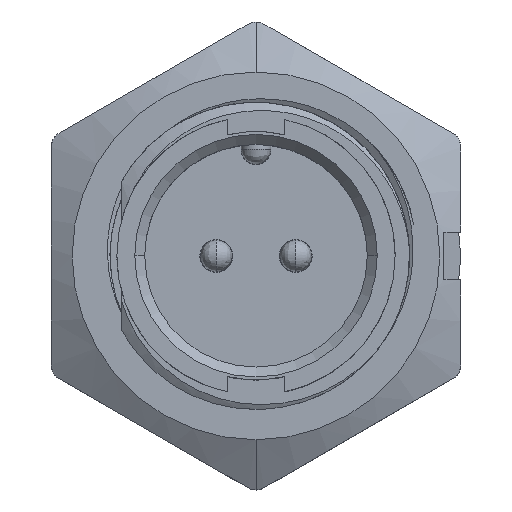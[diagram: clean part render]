
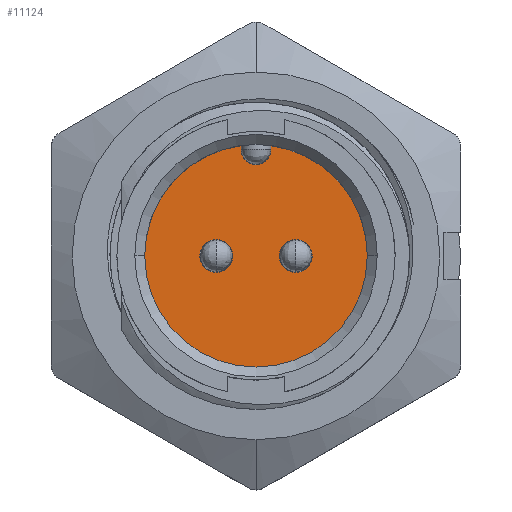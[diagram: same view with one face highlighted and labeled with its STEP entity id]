
A CAD part, top view. The second image highlights one B-rep face of the part: STEP entity #11124.
In plain terms, the highlighted planar face has unit normal (0, 0, 1).
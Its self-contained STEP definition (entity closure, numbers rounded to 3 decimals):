
#9 = PLANE ( 'NONE',  #3208 ) ;
#57 = EDGE_LOOP ( 'NONE', ( #4054, #10061 ) ) ;
#187 = CARTESIAN_POINT ( 'NONE',  ( -0.75, 5.55, -9. ) ) ;
#265 = EDGE_LOOP ( 'NONE', ( #1496, #10187 ) ) ;
#430 = CIRCLE ( 'NONE', #5168, 5.6 ) ;
#556 = VERTEX_POINT ( 'NONE', #3642 ) ;
#563 = DIRECTION ( 'NONE',  ( 0., 0., 1. ) ) ;
#662 = AXIS2_PLACEMENT_3D ( 'NONE', #1089, #5703, #1208 ) ;
#848 = AXIS2_PLACEMENT_3D ( 'NONE', #891, #8313, #4490 ) ;
#891 = CARTESIAN_POINT ( 'NONE',  ( 0., 0., -9. ) ) ;
#1043 = DIRECTION ( 'NONE',  ( 0., 0., -1. ) ) ;
#1089 = CARTESIAN_POINT ( 'NONE',  ( 2., 0., -9. ) ) ;
#1103 = DIRECTION ( 'NONE',  ( 1., 0., 0. ) ) ;
#1208 = DIRECTION ( 'NONE',  ( 1., 0., 0. ) ) ;
#1496 = ORIENTED_EDGE ( 'NONE', *, *, #7570, .T. ) ;
#1624 = DIRECTION ( 'NONE',  ( 0., 0., -1. ) ) ;
#1945 = VECTOR ( 'NONE', #10004, 1000. ) ;
#2050 = ORIENTED_EDGE ( 'NONE', *, *, #7890, .T. ) ;
#2290 = ORIENTED_EDGE ( 'NONE', *, *, #8108, .T. ) ;
#2417 = CARTESIAN_POINT ( 'NONE',  ( 5.6, 0., -9. ) ) ;
#2439 = CARTESIAN_POINT ( 'NONE',  ( 0., 0., -9. ) ) ;
#2722 = CIRCLE ( 'NONE', #5005, 0.75 ) ;
#2787 = VERTEX_POINT ( 'NONE', #8718 ) ;
#2807 = CARTESIAN_POINT ( 'NONE',  ( 0.75, -0.028, -9. ) ) ;
#2911 = LINE ( 'NONE', #4021, #4588 ) ;
#3106 = CARTESIAN_POINT ( 'NONE',  ( 2.825, 0., -9. ) ) ;
#3208 = AXIS2_PLACEMENT_3D ( 'NONE', #3564, #4626, #10986 ) ;
#3564 = CARTESIAN_POINT ( 'NONE',  ( 0., -0.028, -9. ) ) ;
#3642 = CARTESIAN_POINT ( 'NONE',  ( 1.175, 0., -9. ) ) ;
#3666 = AXIS2_PLACEMENT_3D ( 'NONE', #10550, #5133, #6138 ) ;
#3916 = ORIENTED_EDGE ( 'NONE', *, *, #5432, .T. ) ;
#3995 = CARTESIAN_POINT ( 'NONE',  ( -2., 0., -9. ) ) ;
#4021 = CARTESIAN_POINT ( 'NONE',  ( -0.75, -0.028, -9. ) ) ;
#4054 = ORIENTED_EDGE ( 'NONE', *, *, #8025, .T. ) ;
#4198 = EDGE_CURVE ( 'NONE', #9467, #9428, #430, .T. ) ;
#4243 = CIRCLE ( 'NONE', #3666, 0.825 ) ;
#4330 = VERTEX_POINT ( 'NONE', #9320 ) ;
#4490 = DIRECTION ( 'NONE',  ( 1., 0., 0. ) ) ;
#4588 = VECTOR ( 'NONE', #6868, 1000. ) ;
#4612 = CARTESIAN_POINT ( 'NONE',  ( 0.75, 5.55, -9. ) ) ;
#4626 = DIRECTION ( 'NONE',  ( 0., 0., 1. ) ) ;
#4815 = CIRCLE ( 'NONE', #11010, 5.6 ) ;
#4958 = CIRCLE ( 'NONE', #8293, 0.825 ) ;
#4969 = VERTEX_POINT ( 'NONE', #3106 ) ;
#5005 = AXIS2_PLACEMENT_3D ( 'NONE', #5354, #1624, #11529 ) ;
#5133 = DIRECTION ( 'NONE',  ( 0., 0., -1. ) ) ;
#5160 = DIRECTION ( 'NONE',  ( 1., 0., 0. ) ) ;
#5168 = AXIS2_PLACEMENT_3D ( 'NONE', #2439, #9634, #5160 ) ;
#5354 = CARTESIAN_POINT ( 'NONE',  ( 0., 5.35, -9. ) ) ;
#5432 = EDGE_CURVE ( 'NONE', #6468, #4330, #8284, .T. ) ;
#5534 = DIRECTION ( 'NONE',  ( 1., 0., 0. ) ) ;
#5634 = FACE_OUTER_BOUND ( 'NONE', #7363, .T. ) ;
#5703 = DIRECTION ( 'NONE',  ( 0., 0., -1. ) ) ;
#5973 = CARTESIAN_POINT ( 'NONE',  ( -1.175, 0., -9. ) ) ;
#6000 = DIRECTION ( 'NONE',  ( 1., 0., 0. ) ) ;
#6125 = AXIS2_PLACEMENT_3D ( 'NONE', #11123, #9289, #5534 ) ;
#6138 = DIRECTION ( 'NONE',  ( 1., 0., 0. ) ) ;
#6320 = CIRCLE ( 'NONE', #662, 0.825 ) ;
#6468 = VERTEX_POINT ( 'NONE', #4612 ) ;
#6506 = CIRCLE ( 'NONE', #848, 5.6 ) ;
#6713 = CARTESIAN_POINT ( 'NONE',  ( 0., 0., -9. ) ) ;
#6868 = DIRECTION ( 'NONE',  ( 0., 1., 0. ) ) ;
#6982 = EDGE_CURVE ( 'NONE', #2787, #7958, #2911, .T. ) ;
#6987 = VERTEX_POINT ( 'NONE', #7811 ) ;
#7363 = EDGE_LOOP ( 'NONE', ( #3916, #2050, #8600, #7424, #11408, #2290 ) ) ;
#7399 = FACE_BOUND ( 'NONE', #265, .T. ) ;
#7424 = ORIENTED_EDGE ( 'NONE', *, *, #8526, .T. ) ;
#7570 = EDGE_CURVE ( 'NONE', #10612, #6987, #8365, .T. ) ;
#7811 = CARTESIAN_POINT ( 'NONE',  ( -2.825, 0., -9. ) ) ;
#7890 = EDGE_CURVE ( 'NONE', #4330, #2787, #2722, .T. ) ;
#7902 = CARTESIAN_POINT ( 'NONE',  ( -5.6, 0., -9. ) ) ;
#7958 = VERTEX_POINT ( 'NONE', #187 ) ;
#8025 = EDGE_CURVE ( 'NONE', #4969, #556, #6320, .T. ) ;
#8108 = EDGE_CURVE ( 'NONE', #9428, #6468, #4815, .T. ) ;
#8284 = LINE ( 'NONE', #2807, #1945 ) ;
#8293 = AXIS2_PLACEMENT_3D ( 'NONE', #3995, #1043, #1103 ) ;
#8313 = DIRECTION ( 'NONE',  ( 0., 0., 1. ) ) ;
#8365 = CIRCLE ( 'NONE', #6125, 0.825 ) ;
#8526 = EDGE_CURVE ( 'NONE', #7958, #9467, #6506, .T. ) ;
#8600 = ORIENTED_EDGE ( 'NONE', *, *, #6982, .T. ) ;
#8718 = CARTESIAN_POINT ( 'NONE',  ( -0.75, 5.35, -9. ) ) ;
#9289 = DIRECTION ( 'NONE',  ( 0., 0., -1. ) ) ;
#9320 = CARTESIAN_POINT ( 'NONE',  ( 0.75, 5.35, -9. ) ) ;
#9343 = EDGE_CURVE ( 'NONE', #556, #4969, #4243, .T. ) ;
#9428 = VERTEX_POINT ( 'NONE', #2417 ) ;
#9467 = VERTEX_POINT ( 'NONE', #7902 ) ;
#9634 = DIRECTION ( 'NONE',  ( 0., 0., 1. ) ) ;
#10004 = DIRECTION ( 'NONE',  ( 0., -1., 0. ) ) ;
#10061 = ORIENTED_EDGE ( 'NONE', *, *, #9343, .T. ) ;
#10187 = ORIENTED_EDGE ( 'NONE', *, *, #10907, .T. ) ;
#10550 = CARTESIAN_POINT ( 'NONE',  ( 2., 0., -9. ) ) ;
#10612 = VERTEX_POINT ( 'NONE', #5973 ) ;
#10757 = FACE_BOUND ( 'NONE', #57, .T. ) ;
#10907 = EDGE_CURVE ( 'NONE', #6987, #10612, #4958, .T. ) ;
#10986 = DIRECTION ( 'NONE',  ( 1., 0., 0. ) ) ;
#11010 = AXIS2_PLACEMENT_3D ( 'NONE', #6713, #563, #6000 ) ;
#11123 = CARTESIAN_POINT ( 'NONE',  ( -2., 0., -9. ) ) ;
#11124 = ADVANCED_FACE ( 'NONE', ( #10757, #7399, #5634 ), #9, .T. ) ;
#11408 = ORIENTED_EDGE ( 'NONE', *, *, #4198, .T. ) ;
#11529 = DIRECTION ( 'NONE',  ( 1., 0., 0. ) ) ;
